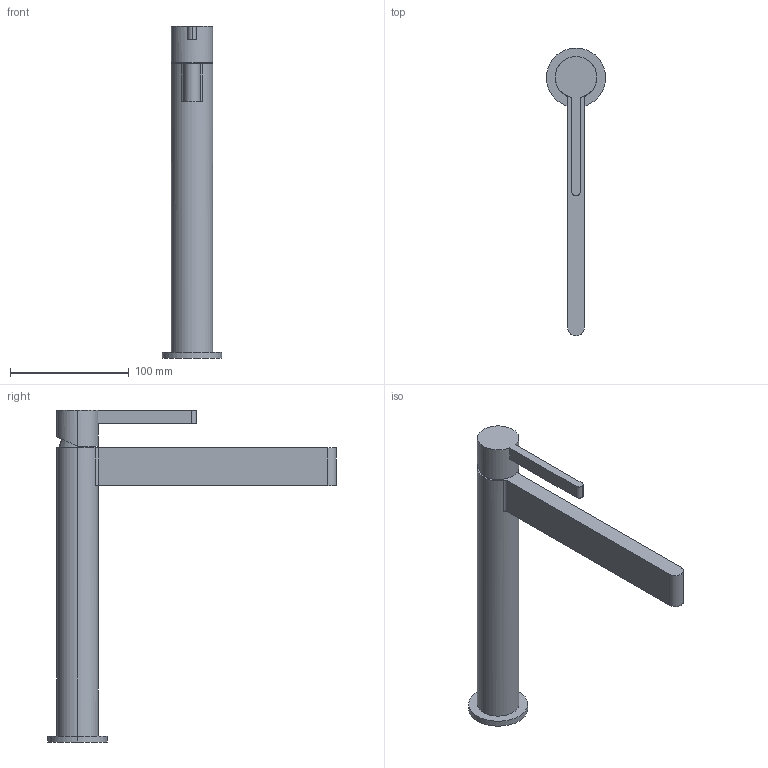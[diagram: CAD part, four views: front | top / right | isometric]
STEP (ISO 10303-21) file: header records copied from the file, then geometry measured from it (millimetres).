
FILE_DESCRIPTION(('FreeCAD Model'),'2;1');
FILE_NAME('Open CASCADE Shape Model','2024-07-23T11:34:41',('Author'),( ''),'Open CASCADE STEP processor 7.6','FreeCAD','Unknown');
FILE_SCHEMA(('AUTOMOTIVE_DESIGN { 1 0 10303 214 1 1 1 1 }'));
Length unit declared in the file: millimetre
Products named in the file (3): TopLevelAssembly; Wyciąganie001; Połączona geometria bryłowa
Assembly tree (2 placements, depth 2):
  TopLevelAssembly
    Wyciąganie001
    Połączona geometria bryłowa
Bounding box: 50 x 243 x 279.8 mm (x, y, z)
Volume: 369281.6 mm3; surface area: 58530.4 mm2
Topology: 2 solids, 2 shells, 26 faces, 61 edges, 40 vertices
Faces by surface type: plane 13, cylinder 11, bspline 2
Entity records: 865 total; most frequent: CARTESIAN_POINT 180, DIRECTION 145, ORIENTED_EDGE 122, EDGE_CURVE 61, AXIS2_PLACEMENT_3D 59, VERTEX_POINT 40, CIRCLE 31, FACE_BOUND 27
